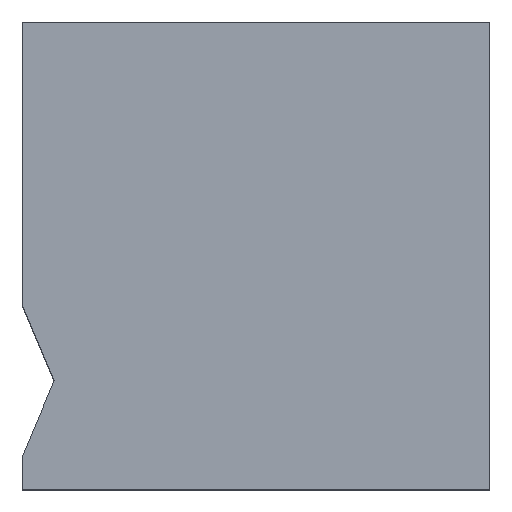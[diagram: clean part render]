
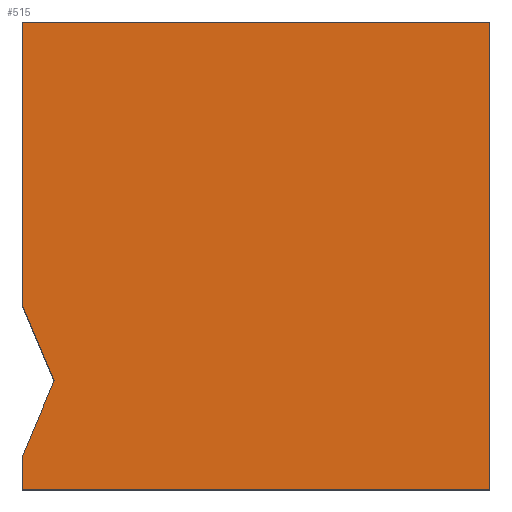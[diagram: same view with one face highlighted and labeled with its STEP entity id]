
A CAD part, top view. The second image highlights one B-rep face of the part: STEP entity #515.
In plain terms, the highlighted planar face has unit normal (0, 0, 1).
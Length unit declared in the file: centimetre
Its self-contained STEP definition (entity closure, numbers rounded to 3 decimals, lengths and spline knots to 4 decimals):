
#8 = LINE ( 'NONE', #367, #728 ) ;
#17 = ORIENTED_EDGE ( 'NONE', *, *, #385, .T. ) ;
#57 = LINE ( 'NONE', #347, #445 ) ;
#61 = VERTEX_POINT ( 'NONE', #786 ) ;
#142 = DIRECTION ( 'NONE',  ( 0., -1., 0. ) ) ;
#148 = DIRECTION ( 'NONE',  ( 1., 0., 0. ) ) ;
#161 = DIRECTION ( 'NONE',  ( 0., 1., 0. ) ) ;
#164 = VERTEX_POINT ( 'NONE', #211 ) ;
#166 = CARTESIAN_POINT ( 'NONE',  ( 0., 1000., 1000. ) ) ;
#211 = CARTESIAN_POINT ( 'NONE',  ( 0., 70.6425, 1000. ) ) ;
#233 = EDGE_LOOP ( 'NONE', ( #490, #747, #1039, #919, #868, #17, #866 ) ) ;
#243 = LINE ( 'NONE', #1050, #343 ) ;
#245 = LINE ( 'NONE', #336, #1100 ) ;
#315 = CARTESIAN_POINT ( 'NONE',  ( 1000., 1000., 1000. ) ) ;
#331 = DIRECTION ( 'NONE',  ( 1., 0., 0. ) ) ;
#336 = CARTESIAN_POINT ( 'NONE',  ( 1000., 1000., 1000. ) ) ;
#341 = DIRECTION ( 'NONE',  ( 0., -1., 0. ) ) ;
#343 = VECTOR ( 'NONE', #608, 100. ) ;
#347 = CARTESIAN_POINT ( 'NONE',  ( 0., 0., 1000. ) ) ;
#361 = CARTESIAN_POINT ( 'NONE',  ( 67.9034, 231.7595, 1000. ) ) ;
#367 = CARTESIAN_POINT ( 'NONE',  ( 67.9034, 231.7595, 1000. ) ) ;
#385 = EDGE_CURVE ( 'NONE', #516, #618, #978, .T. ) ;
#445 = VECTOR ( 'NONE', #331, 100. ) ;
#484 = EDGE_CURVE ( 'NONE', #996, #61, #57, .T. ) ;
#490 = ORIENTED_EDGE ( 'NONE', *, *, #905, .T. ) ;
#502 = CARTESIAN_POINT ( 'NONE',  ( 0., 1000., 1000. ) ) ;
#515 = ADVANCED_FACE ( 'NONE', ( #530 ), #800, .T. ) ;
#516 = VERTEX_POINT ( 'NONE', #502 ) ;
#526 = CARTESIAN_POINT ( 'NONE',  ( 0., 0., 1000. ) ) ;
#530 = FACE_OUTER_BOUND ( 'NONE', #233, .T. ) ;
#547 = VECTOR ( 'NONE', #142, 100. ) ;
#555 = EDGE_CURVE ( 'NONE', #164, #996, #797, .T. ) ;
#603 = EDGE_CURVE ( 'NONE', #61, #918, #245, .T. ) ;
#608 = DIRECTION ( 'NONE',  ( -0.388, -0.922, 0. ) ) ;
#618 = VERTEX_POINT ( 'NONE', #835 ) ;
#674 = EDGE_CURVE ( 'NONE', #918, #516, #1003, .T. ) ;
#697 = CARTESIAN_POINT ( 'NONE',  ( 0., 1000., 1000. ) ) ;
#728 = VECTOR ( 'NONE', #740, 100. ) ;
#740 = DIRECTION ( 'NONE',  ( 0.388, -0.922, 0. ) ) ;
#747 = ORIENTED_EDGE ( 'NONE', *, *, #555, .T. ) ;
#758 = AXIS2_PLACEMENT_3D ( 'NONE', #1158, #959, #148 ) ;
#763 = EDGE_CURVE ( 'NONE', #618, #1069, #8, .T. ) ;
#786 = CARTESIAN_POINT ( 'NONE',  ( 1000., 0., 1000. ) ) ;
#793 = VECTOR ( 'NONE', #901, 100. ) ;
#797 = LINE ( 'NONE', #697, #927 ) ;
#800 = PLANE ( 'NONE',  #758 ) ;
#835 = CARTESIAN_POINT ( 'NONE',  ( 0., 392.8766, 1000. ) ) ;
#866 = ORIENTED_EDGE ( 'NONE', *, *, #763, .T. ) ;
#868 = ORIENTED_EDGE ( 'NONE', *, *, #674, .T. ) ;
#901 = DIRECTION ( 'NONE',  ( -1., 0., 0. ) ) ;
#905 = EDGE_CURVE ( 'NONE', #1069, #164, #243, .T. ) ;
#918 = VERTEX_POINT ( 'NONE', #315 ) ;
#919 = ORIENTED_EDGE ( 'NONE', *, *, #603, .T. ) ;
#927 = VECTOR ( 'NONE', #341, 100. ) ;
#959 = DIRECTION ( 'NONE',  ( 0., 0., 1. ) ) ;
#978 = LINE ( 'NONE', #166, #547 ) ;
#996 = VERTEX_POINT ( 'NONE', #526 ) ;
#1003 = LINE ( 'NONE', #1011, #793 ) ;
#1011 = CARTESIAN_POINT ( 'NONE',  ( 0., 1000., 1000. ) ) ;
#1039 = ORIENTED_EDGE ( 'NONE', *, *, #484, .T. ) ;
#1050 = CARTESIAN_POINT ( 'NONE',  ( 0., 70.6425, 1000. ) ) ;
#1069 = VERTEX_POINT ( 'NONE', #361 ) ;
#1100 = VECTOR ( 'NONE', #161, 100. ) ;
#1158 = CARTESIAN_POINT ( 'NONE',  ( 0., 0., 1000. ) ) ;
